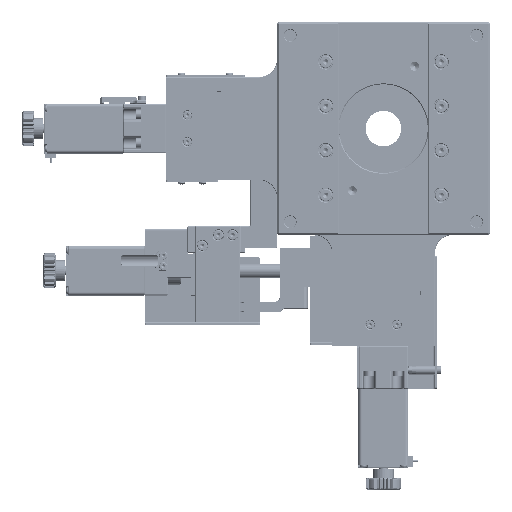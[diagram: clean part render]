
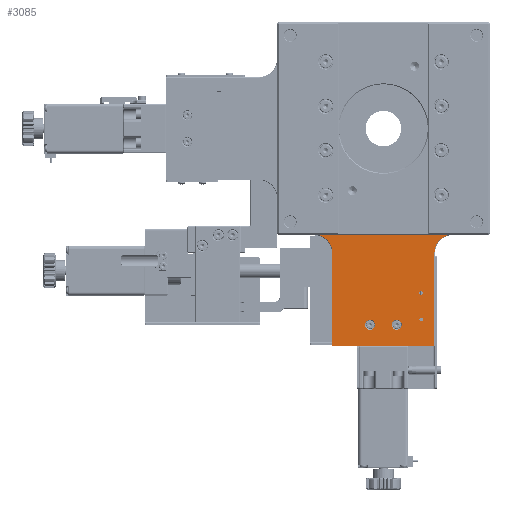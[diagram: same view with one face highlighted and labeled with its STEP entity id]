
A CAD part, front view. The second image highlights one B-rep face of the part: STEP entity #3085.
In plain terms, the highlighted planar face has unit normal (0, -1, 0).
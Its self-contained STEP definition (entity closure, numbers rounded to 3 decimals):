
#455 = AXIS2_PLACEMENT_3D ( 'NONE', #20820, #118879, #245666 ) ;
#3085 = ADVANCED_FACE ( 'NONE', ( #306604, #11155, #229573, #86722, #235912 ), #109259, .F. ) ;
#5009 = CIRCLE ( 'NONE', #46092, 2.8 ) ;
#6746 = AXIS2_PLACEMENT_3D ( 'NONE', #184178, #282029, #230700 ) ;
#6798 = ORIENTED_EDGE ( 'NONE', *, *, #98889, .T. ) ;
#11155 = FACE_BOUND ( 'NONE', #187937, .T. ) ;
#15737 = ORIENTED_EDGE ( 'NONE', *, *, #47479, .T. ) ;
#16707 = DIRECTION ( 'NONE',  ( 0., 1., 0. ) ) ;
#20229 = VECTOR ( 'NONE', #34117, 1000. ) ;
#20820 = CARTESIAN_POINT ( 'NONE',  ( 6.854, -52.086, -118.734 ) ) ;
#21118 = VERTEX_POINT ( 'NONE', #315529 ) ;
#21880 = VERTEX_POINT ( 'NONE', #208650 ) ;
#22806 = DIRECTION ( 'NONE',  ( 0., 0., 1. ) ) ;
#24926 = CIRCLE ( 'NONE', #71177, 10.3 ) ;
#24975 = DIRECTION ( 'NONE',  ( 0., 1., 0. ) ) ;
#25900 = CARTESIAN_POINT ( 'NONE',  ( -39.646, -52.086, -78.234 ) ) ;
#29077 = EDGE_CURVE ( 'NONE', #176116, #282787, #164809, .T. ) ;
#34117 = DIRECTION ( 'NONE',  ( 0., 0., -1. ) ) ;
#35368 = EDGE_CURVE ( 'NONE', #244735, #117158, #158145, .T. ) ;
#41036 = VERTEX_POINT ( 'NONE', #244078 ) ;
#41970 = ORIENTED_EDGE ( 'NONE', *, *, #276121, .T. ) ;
#43538 = ORIENTED_EDGE ( 'NONE', *, *, #89383, .T. ) ;
#46092 = AXIS2_PLACEMENT_3D ( 'NONE', #314106, #315644, #193661 ) ;
#47479 = EDGE_CURVE ( 'NONE', #282787, #176116, #291921, .T. ) ;
#54026 = CARTESIAN_POINT ( 'NONE',  ( 20.554, -52.086, -115.734 ) ) ;
#55594 = DIRECTION ( 'NONE',  ( 0., 1., 0. ) ) ;
#58148 = EDGE_LOOP ( 'NONE', ( #190403, #15737 ) ) ;
#62602 = EDGE_CURVE ( 'NONE', #233377, #282004, #246973, .T. ) ;
#63095 = EDGE_CURVE ( 'NONE', #251970, #41036, #103302, .T. ) ;
#65867 = ORIENTED_EDGE ( 'NONE', *, *, #260890, .T. ) ;
#71177 = AXIS2_PLACEMENT_3D ( 'NONE', #25900, #175225, #295606 ) ;
#75896 = EDGE_CURVE ( 'NONE', #281894, #21118, #196278, .T. ) ;
#80526 = ORIENTED_EDGE ( 'NONE', *, *, #278073, .T. ) ;
#81449 = CIRCLE ( 'NONE', #261008, 2.8 ) ;
#83852 = CIRCLE ( 'NONE', #6746, 10.3 ) ;
#85796 = DIRECTION ( 'NONE',  ( 0., 0., 1. ) ) ;
#86722 = FACE_BOUND ( 'NONE', #146438, .T. ) ;
#88112 = ORIENTED_EDGE ( 'NONE', *, *, #258111, .T. ) ;
#88646 = CIRCLE ( 'NONE', #252562, 2.8 ) ;
#88931 = CARTESIAN_POINT ( 'NONE',  ( 6.854, -52.086, -121.534 ) ) ;
#89383 = EDGE_CURVE ( 'NONE', #21880, #90910, #258865, .T. ) ;
#90910 = VERTEX_POINT ( 'NONE', #125044 ) ;
#98121 = AXIS2_PLACEMENT_3D ( 'NONE', #263819, #117640, #22806 ) ;
#98889 = EDGE_CURVE ( 'NONE', #117158, #281894, #83852, .T. ) ;
#98950 = DIRECTION ( 'NONE',  ( 0., 0., 1. ) ) ;
#103302 = CIRCLE ( 'NONE', #455, 2.8 ) ;
#103553 = AXIS2_PLACEMENT_3D ( 'NONE', #54026, #55594, #153666 ) ;
#106630 = CARTESIAN_POINT ( 'NONE',  ( -8.146, -52.086, -115.934 ) ) ;
#109259 = PLANE ( 'NONE',  #225226 ) ;
#115961 = CARTESIAN_POINT ( 'NONE',  ( -8.146, -52.086, -121.534 ) ) ;
#116887 = CARTESIAN_POINT ( 'NONE',  ( 20.554, -52.086, -115.734 ) ) ;
#117158 = VERTEX_POINT ( 'NONE', #198403 ) ;
#117640 = DIRECTION ( 'NONE',  ( 0., 1., 0. ) ) ;
#118879 = DIRECTION ( 'NONE',  ( 0., 1., 0. ) ) ;
#124852 = DIRECTION ( 'NONE',  ( 0., 0., 1. ) ) ;
#125044 = CARTESIAN_POINT ( 'NONE',  ( -29.346, -52.086, -130.434 ) ) ;
#126162 = CARTESIAN_POINT ( 'NONE',  ( 20.554, -52.086, -100.734 ) ) ;
#127463 = CARTESIAN_POINT ( 'NONE',  ( 20.554, -52.086, -114.709 ) ) ;
#136608 = EDGE_CURVE ( 'NONE', #41036, #251970, #88646, .T. ) ;
#140305 = AXIS2_PLACEMENT_3D ( 'NONE', #116887, #224244, #124852 ) ;
#142826 = CARTESIAN_POINT ( 'NONE',  ( 28.054, -52.086, -130.434 ) ) ;
#146438 = EDGE_LOOP ( 'NONE', ( #278651, #307014 ) ) ;
#148137 = DIRECTION ( 'NONE',  ( -1., 0., 0. ) ) ;
#149973 = VECTOR ( 'NONE', #85796, 1000. ) ;
#153666 = DIRECTION ( 'NONE',  ( 0., 0., 1. ) ) ;
#156809 = VECTOR ( 'NONE', #148137, 1000. ) ;
#158145 = LINE ( 'NONE', #262347, #149973 ) ;
#162820 = DIRECTION ( 'NONE',  ( 0., 0., 1. ) ) ;
#164809 = CIRCLE ( 'NONE', #98121, 1.025 ) ;
#168513 = DIRECTION ( 'NONE',  ( 0., 0., 1. ) ) ;
#170618 = CARTESIAN_POINT ( 'NONE',  ( 35.886, -52.086, -68.234 ) ) ;
#175225 = DIRECTION ( 'NONE',  ( 0., 1., 0. ) ) ;
#176116 = VERTEX_POINT ( 'NONE', #182229 ) ;
#180695 = CARTESIAN_POINT ( 'NONE',  ( -8.146, -52.086, -118.734 ) ) ;
#182229 = CARTESIAN_POINT ( 'NONE',  ( 20.554, -52.086, -99.709 ) ) ;
#184178 = CARTESIAN_POINT ( 'NONE',  ( 38.354, -52.086, -78.234 ) ) ;
#187761 = CARTESIAN_POINT ( 'NONE',  ( 28.354, -52.086, -130.734 ) ) ;
#187937 = EDGE_LOOP ( 'NONE', ( #292183, #88112 ) ) ;
#190403 = ORIENTED_EDGE ( 'NONE', *, *, #29077, .T. ) ;
#192246 = DIRECTION ( 'NONE',  ( 1., 0., 0. ) ) ;
#193661 = DIRECTION ( 'NONE',  ( 0., 0., 1. ) ) ;
#193775 = LINE ( 'NONE', #264500, #283776 ) ;
#194602 = AXIS2_PLACEMENT_3D ( 'NONE', #126162, #24975, #98950 ) ;
#196278 = LINE ( 'NONE', #289374, #156809 ) ;
#198403 = CARTESIAN_POINT ( 'NONE',  ( 28.054, -52.086, -78.234 ) ) ;
#208650 = CARTESIAN_POINT ( 'NONE',  ( -29.346, -52.086, -78.234 ) ) ;
#213670 = CARTESIAN_POINT ( 'NONE',  ( 20.554, -52.086, -101.759 ) ) ;
#224244 = DIRECTION ( 'NONE',  ( 0., 1., 0. ) ) ;
#225226 = AXIS2_PLACEMENT_3D ( 'NONE', #187761, #285665, #168513 ) ;
#228083 = VERTEX_POINT ( 'NONE', #106630 ) ;
#229573 = FACE_OUTER_BOUND ( 'NONE', #292932, .T. ) ;
#230700 = DIRECTION ( 'NONE',  ( 0., 0., 1. ) ) ;
#232901 = CARTESIAN_POINT ( 'NONE',  ( 20.554, -52.086, -116.759 ) ) ;
#233377 = VERTEX_POINT ( 'NONE', #127463 ) ;
#235912 = FACE_BOUND ( 'NONE', #245319, .T. ) ;
#238361 = ORIENTED_EDGE ( 'NONE', *, *, #35368, .T. ) ;
#242862 = CIRCLE ( 'NONE', #140305, 1.025 ) ;
#244078 = CARTESIAN_POINT ( 'NONE',  ( 6.854, -52.086, -115.934 ) ) ;
#244509 = ORIENTED_EDGE ( 'NONE', *, *, #274943, .T. ) ;
#244735 = VERTEX_POINT ( 'NONE', #142826 ) ;
#245319 = EDGE_LOOP ( 'NONE', ( #244509, #41970 ) ) ;
#245666 = DIRECTION ( 'NONE',  ( 0., 0., 1. ) ) ;
#246973 = CIRCLE ( 'NONE', #103553, 1.025 ) ;
#251970 = VERTEX_POINT ( 'NONE', #88931 ) ;
#252562 = AXIS2_PLACEMENT_3D ( 'NONE', #287819, #263855, #162820 ) ;
#256174 = DIRECTION ( 'NONE',  ( 0., 0., 1. ) ) ;
#257286 = CARTESIAN_POINT ( 'NONE',  ( -29.346, -52.086, -130.734 ) ) ;
#258111 = EDGE_CURVE ( 'NONE', #282004, #233377, #242862, .T. ) ;
#258865 = LINE ( 'NONE', #257286, #20229 ) ;
#260890 = EDGE_CURVE ( 'NONE', #21118, #21880, #24926, .T. ) ;
#261008 = AXIS2_PLACEMENT_3D ( 'NONE', #180695, #16707, #256174 ) ;
#262347 = CARTESIAN_POINT ( 'NONE',  ( 28.054, -52.086, -130.734 ) ) ;
#263819 = CARTESIAN_POINT ( 'NONE',  ( 20.554, -52.086, -100.734 ) ) ;
#263855 = DIRECTION ( 'NONE',  ( 0., 1., 0. ) ) ;
#264500 = CARTESIAN_POINT ( 'NONE',  ( 28.354, -52.086, -130.434 ) ) ;
#273248 = VERTEX_POINT ( 'NONE', #115961 ) ;
#274943 = EDGE_CURVE ( 'NONE', #273248, #228083, #81449, .T. ) ;
#276121 = EDGE_CURVE ( 'NONE', #228083, #273248, #5009, .T. ) ;
#278073 = EDGE_CURVE ( 'NONE', #90910, #244735, #193775, .T. ) ;
#278651 = ORIENTED_EDGE ( 'NONE', *, *, #63095, .T. ) ;
#281894 = VERTEX_POINT ( 'NONE', #170618 ) ;
#282004 = VERTEX_POINT ( 'NONE', #232901 ) ;
#282029 = DIRECTION ( 'NONE',  ( 0., 1., 0. ) ) ;
#282787 = VERTEX_POINT ( 'NONE', #213670 ) ;
#283277 = ORIENTED_EDGE ( 'NONE', *, *, #75896, .T. ) ;
#283776 = VECTOR ( 'NONE', #192246, 1000. ) ;
#285665 = DIRECTION ( 'NONE',  ( 0., 1., 0. ) ) ;
#287819 = CARTESIAN_POINT ( 'NONE',  ( 6.854, -52.086, -118.734 ) ) ;
#289374 = CARTESIAN_POINT ( 'NONE',  ( 28.354, -52.086, -68.234 ) ) ;
#291921 = CIRCLE ( 'NONE', #194602, 1.025 ) ;
#292183 = ORIENTED_EDGE ( 'NONE', *, *, #62602, .T. ) ;
#292932 = EDGE_LOOP ( 'NONE', ( #283277, #65867, #43538, #80526, #238361, #6798 ) ) ;
#295606 = DIRECTION ( 'NONE',  ( 0., 0., 1. ) ) ;
#306604 = FACE_BOUND ( 'NONE', #58148, .T. ) ;
#307014 = ORIENTED_EDGE ( 'NONE', *, *, #136608, .T. ) ;
#314106 = CARTESIAN_POINT ( 'NONE',  ( -8.146, -52.086, -118.734 ) ) ;
#315529 = CARTESIAN_POINT ( 'NONE',  ( -37.178, -52.086, -68.234 ) ) ;
#315644 = DIRECTION ( 'NONE',  ( 0., 1., 0. ) ) ;
